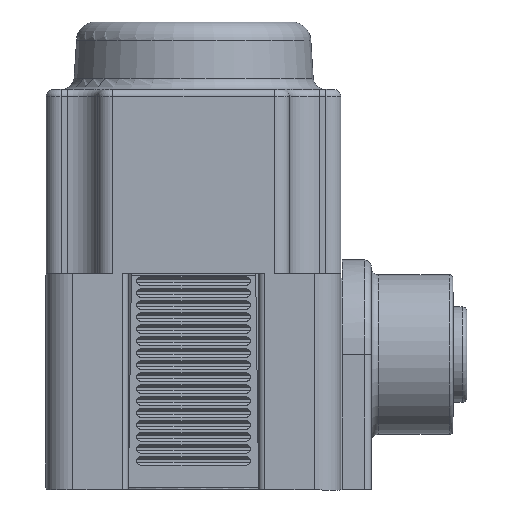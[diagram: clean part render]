
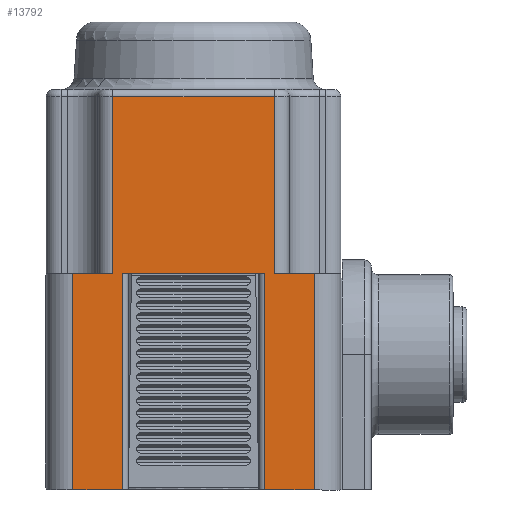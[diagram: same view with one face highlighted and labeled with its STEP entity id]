
A CAD part, left-side view. The second image highlights one B-rep face of the part: STEP entity #13792.
In plain terms, the highlighted planar face has unit normal (-1, 0, 0).
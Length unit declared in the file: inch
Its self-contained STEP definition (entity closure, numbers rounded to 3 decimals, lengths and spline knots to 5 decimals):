
#1632=LINE('',#23760,#2539);
#1645=LINE('',#23830,#2552);
#1768=LINE('',#25406,#2675);
#1786=LINE('',#25466,#2693);
#1787=LINE('',#25470,#2694);
#1790=LINE('',#25489,#2697);
#1803=LINE('',#25558,#2710);
#1804=LINE('',#25562,#2711);
#1805=LINE('',#25563,#2712);
#1806=LINE('',#25565,#2713);
#1807=LINE('',#25567,#2714);
#1808=LINE('',#25568,#2715);
#2539=VECTOR('',#18257,0.3937);
#2552=VECTOR('',#18340,0.3937);
#2675=VECTOR('',#18665,0.3937);
#2693=VECTOR('',#18737,0.3937);
#2694=VECTOR('',#18742,0.3937);
#2697=VECTOR('',#18763,0.3937);
#2710=VECTOR('',#18854,0.3937);
#2711=VECTOR('',#18859,0.3937);
#2712=VECTOR('',#18860,0.3937);
#2713=VECTOR('',#18861,0.3937);
#2714=VECTOR('',#18862,0.3937);
#2715=VECTOR('',#18863,0.3937);
#3532=FACE_OUTER_BOUND('',#4360,.T.);
#4360=EDGE_LOOP('',(#11828,#11829,#11830,#11831,#11832,#11833,#11834,#11835,
#11836,#11837,#11838,#11839));
#5953=VERTEX_POINT('',#23752);
#5955=VERTEX_POINT('',#23758);
#5977=VERTEX_POINT('',#23828);
#6113=VERTEX_POINT('',#25403);
#6114=VERTEX_POINT('',#25405);
#6129=VERTEX_POINT('',#25465);
#6130=VERTEX_POINT('',#25469);
#6137=VERTEX_POINT('',#25487);
#6154=VERTEX_POINT('',#25557);
#6155=VERTEX_POINT('',#25561);
#6156=VERTEX_POINT('',#25564);
#6157=VERTEX_POINT('',#25566);
#7747=EDGE_CURVE('',#5955,#5953,#1632,.T.);
#7783=EDGE_CURVE('',#5977,#5955,#1645,.T.);
#7992=EDGE_CURVE('',#6114,#6113,#1768,.T.);
#8022=EDGE_CURVE('',#6129,#5953,#1786,.T.);
#8024=EDGE_CURVE('',#6130,#6129,#1787,.T.);
#8034=EDGE_CURVE('',#5977,#6137,#1790,.T.);
#8068=EDGE_CURVE('',#6154,#6114,#1803,.T.);
#8070=EDGE_CURVE('',#6155,#6137,#1804,.T.);
#8071=EDGE_CURVE('',#6154,#6155,#1805,.T.);
#8072=EDGE_CURVE('',#6156,#6113,#1806,.T.);
#8073=EDGE_CURVE('',#6156,#6157,#1807,.T.);
#8074=EDGE_CURVE('',#6157,#6130,#1808,.T.);
#11828=ORIENTED_EDGE('',*,*,#7747,.F.);
#11829=ORIENTED_EDGE('',*,*,#7783,.F.);
#11830=ORIENTED_EDGE('',*,*,#8034,.T.);
#11831=ORIENTED_EDGE('',*,*,#8070,.F.);
#11832=ORIENTED_EDGE('',*,*,#8071,.F.);
#11833=ORIENTED_EDGE('',*,*,#8068,.T.);
#11834=ORIENTED_EDGE('',*,*,#7992,.T.);
#11835=ORIENTED_EDGE('',*,*,#8072,.F.);
#11836=ORIENTED_EDGE('',*,*,#8073,.T.);
#11837=ORIENTED_EDGE('',*,*,#8074,.T.);
#11838=ORIENTED_EDGE('',*,*,#8024,.T.);
#11839=ORIENTED_EDGE('',*,*,#8022,.T.);
#12324=PLANE('',#15195);
#13792=ADVANCED_FACE('',(#3532),#12324,.T.);
#15195=AXIS2_PLACEMENT_3D('',#25560,#18857,#18858);
#18257=DIRECTION('',(0.,-1.,0.));
#18340=DIRECTION('',(0.,0.,1.));
#18665=DIRECTION('',(0.,-1.,0.));
#18737=DIRECTION('',(0.,0.,1.));
#18742=DIRECTION('',(0.,1.,0.));
#18763=DIRECTION('',(0.,1.,0.));
#18854=DIRECTION('',(0.,0.,1.));
#18857=DIRECTION('center_axis',(-1.,0.,0.));
#18858=DIRECTION('ref_axis',(0.,0.,1.));
#18859=DIRECTION('',(0.,0.,1.));
#18860=DIRECTION('',(0.,1.,0.));
#18861=DIRECTION('',(0.,0.,1.));
#18862=DIRECTION('',(0.,-1.,0.));
#18863=DIRECTION('',(0.,0.,1.));
#23752=CARTESIAN_POINT('',(1.00013,-0.79463,0.65855));
#23758=CARTESIAN_POINT('',(1.00013,-0.12663,0.65855));
#23760=CARTESIAN_POINT('',(1.00013,-0.12663,0.65855));
#23828=CARTESIAN_POINT('',(1.00013,-0.12663,-0.07345));
#23830=CARTESIAN_POINT('',(1.00013,-0.12663,-0.07345));
#25403=CARTESIAN_POINT('',(1.00013,-0.75463,-0.07345));
#25405=CARTESIAN_POINT('',(1.00013,-0.16663,-0.07345));
#25406=CARTESIAN_POINT('',(1.00013,-0.16663,-0.07345));
#25465=CARTESIAN_POINT('',(1.00013,-0.79463,-0.07345));
#25466=CARTESIAN_POINT('',(1.00013,-0.79463,-0.07345));
#25469=CARTESIAN_POINT('',(1.00013,-0.95963,-0.07345));
#25470=CARTESIAN_POINT('',(1.00013,-0.95963,-0.07345));
#25487=CARTESIAN_POINT('',(1.00013,0.03837,-0.07345));
#25489=CARTESIAN_POINT('',(1.00013,-0.12663,-0.07345));
#25557=CARTESIAN_POINT('',(1.00013,-0.16663,-0.96745));
#25558=CARTESIAN_POINT('',(1.00013,-0.16663,-0.96745));
#25560=CARTESIAN_POINT('Origin',(1.00013,-0.96003,-0.15445));
#25561=CARTESIAN_POINT('',(1.00013,0.03837,-0.96745));
#25562=CARTESIAN_POINT('',(1.00013,0.03837,-0.96745));
#25563=CARTESIAN_POINT('',(1.00013,-0.16663,-0.96745));
#25564=CARTESIAN_POINT('',(1.00013,-0.75463,-0.96745));
#25565=CARTESIAN_POINT('',(1.00013,-0.75463,-0.96745));
#25566=CARTESIAN_POINT('',(1.00013,-0.95963,-0.96745));
#25567=CARTESIAN_POINT('',(1.00013,-0.75463,-0.96745));
#25568=CARTESIAN_POINT('',(1.00013,-0.95963,-0.96745));
